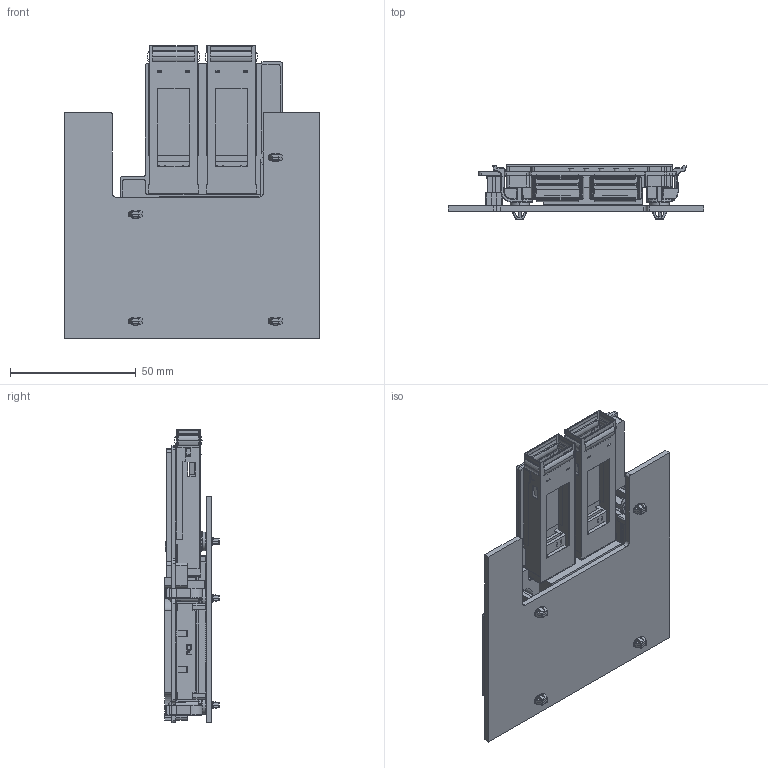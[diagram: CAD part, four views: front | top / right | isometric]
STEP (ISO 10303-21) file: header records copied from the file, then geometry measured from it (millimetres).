
FILE_DESCRIPTION((''),'2;1');
FILE_NAME('OCP-MZ-2_0-BD-ASSY_1X4SFP_8MM_ASM','2015-10-23T',('95030616'),(''),'PRO/ENGINEER BY PARAMETRIC TECHNOLOGY CORPORATION, 2013040','PRO/ENGINEER BY PARAMETRIC TECHNOLOGY CORPORATION, 2013040','');
FILE_SCHEMA(('AUTOMOTIVE_DESIGN { 1 0 10303 214 1 1 1 1 }'));
Products named in the file (21): OCP-2_0-BOARD_2; F01-LED-EVERLIGHT; FCI-P61083-124X2XXX_2; FCI_61083_084402LF_LEOPARD_E1; BTM-KEEPOUT-2MM; BTM-KEEPOUT-2_9MM; TOP-KEEPOUT-4_5MM; TOP-KEEPOUT-4_5MM-3; TOP-KEEPOUT-4MM; TOP-KEEPOUT-4MM-2; TOP-KEEPOUT-11_5MM; PORTION_MB_LEOPARD_E1_FILLED; FCI_61082_082402LF_LEOPARD_E1; FCI_61082_122402LF_LEOPARD_E1; 64POS-REC2; ASSY_PORTION_MB_LEOPARD_E1_ASM__ASM; F07-MEZZ-LATCH-RIGHT-12MM; F07-MEZZ-LATCH-LEFT-12MM; M-U90-A111-1001-REVT1; M-FS1-E38-X0M0-X0-REVT1; OCP-MZ-2_0-BD-ASSY_1X4SFP_8MM_ASM
Assembly tree (28 placements, depth 3):
  OCP-MZ-2_0-BD-ASSY_1X4SFP_8MM_ASM
    OCP-2_0-BOARD_2
    F01-LED-EVERLIGHT  x5
    FCI-P61083-124X2XXX_2
    FCI_61083_084402LF_LEOPARD_E1
    BTM-KEEPOUT-2MM
    BTM-KEEPOUT-2_9MM
    TOP-KEEPOUT-4_5MM
    TOP-KEEPOUT-4_5MM-3
    TOP-KEEPOUT-4MM
    TOP-KEEPOUT-4MM-2
    TOP-KEEPOUT-11_5MM
    ASSY_PORTION_MB_LEOPARD_E1_ASM__ASM
      PORTION_MB_LEOPARD_E1_FILLED
      FCI_61082_082402LF_LEOPARD_E1
      FCI_61082_122402LF_LEOPARD_E1
      64POS-REC2
    F07-MEZZ-LATCH-RIGHT-12MM  x3
    F07-MEZZ-LATCH-LEFT-12MM
    M-U90-A111-1001-REVT1  x2
    M-FS1-E38-X0M0-X0-REVT1  x2
Bounding box: 101.72 x 21.77 x 116.55 mm (x, y, z)
Volume: 93934.8 mm3; surface area: 90205.7 mm2
Topology: 27 solids, 27 shells, 10720 faces, 30256 edges, 19262 vertices
Faces by surface type: plane 8480, cylinder 1541, bspline 390, cone 137, sphere 136, torus 36
Entity records: 327492 total; most frequent: CARTESIAN_POINT 60635, ORIENTED_EDGE 48522, DIRECTION 42083, EDGE_CURVE 24261, VECTOR 21881, LINE 21881, VERTEX_POINT 15431, PRESENTATION_STYLE_ASSIGNMENT 13092
